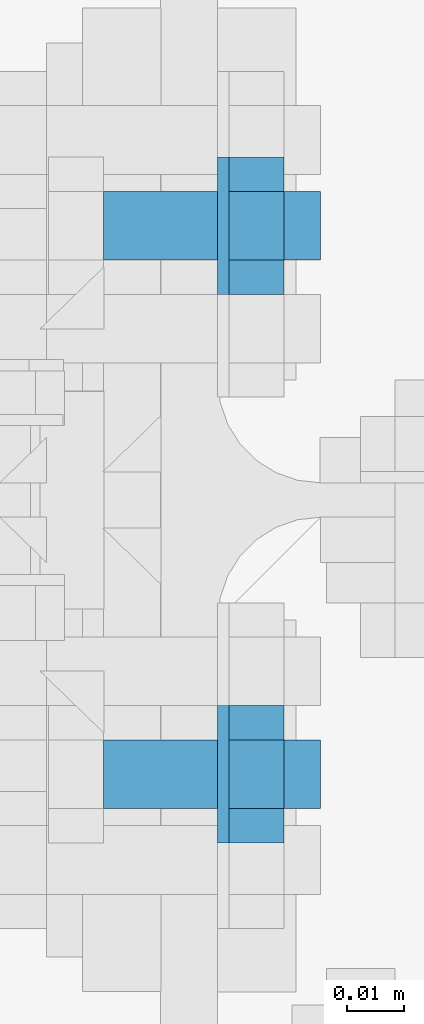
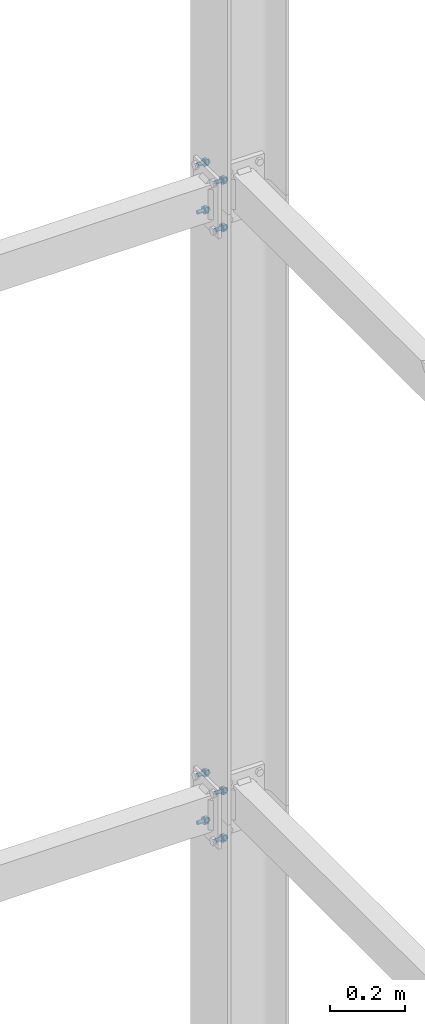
# One storey, part 227 of 251: 24 mechanical fasteners.
"""IFC4 building model written with IfcOpenShell, lengths in metres."""

from ifc_helpers import new_model, si_unit, frame, origin_with_axes, place, context, project, spatial, polyline, outline, extrude, type_object, element, save


model = new_model("IFC4")

# Units and contexts
model_context = context("Model", 3, precision=1e-05, world=origin_with_axes())
ifc_project = project(units=[si_unit("LENGTHUNIT", "METRE"), si_unit("AREAUNIT", "SQUARE_METRE"), si_unit("VOLUMEUNIT", "CUBIC_METRE"), si_unit("MASSUNIT", "GRAM", prefix="KILO"), si_unit("TIMEUNIT", "SECOND"), si_unit("PLANEANGLEUNIT", "RADIAN"), si_unit("SOLIDANGLEUNIT", "STERADIAN"), si_unit("THERMODYNAMICTEMPERATUREUNIT", "DEGREE_CELSIUS")], contexts=[model_context])

# Site, building, storey
placement_1 = place(None, origin_with_axes())
site = spatial("IfcSite", under=ifc_project, at=placement_1, Name="Italia", CompositionType="ELEMENT")
building = spatial("IfcBuilding", under=site, at=placement_1, Name="Deposito", CompositionType="ELEMENT")
storey = spatial("IfcBuildingStorey", under=building, at=placement_1, Name="Storey 0", CompositionType="ELEMENT", Elevation=0.0)

# Mechanical fasteners
mechanical_fastener_type_1 = type_object("IfcMechanicalFastenerType", Name="Collegamenti -005_-006 -008_-007 -013_-014 -016_-015", PredefinedType="BOLT")
placement_2 = place(placement_1, origin_with_axes())
mechanical_fastener_1_placement = place(placement_2, origin_with_axes())
element("IfcMechanicalFastener", 1, at=mechanical_fastener_1_placement, inside=storey, type_object=mechanical_fastener_type_1, Name="Collegamenti -005_-006 -008_-007 -013_-014 -016_-015", NominalDiameter=0.012, context=model_context, shape_type="SweptSolid", body=[
    extrude(outline(polyline([(0.0, 0.0), (-0.000204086, -0.00155294), (-0.000804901, -0.00300002), (-0.00175858, -0.00424266), (-0.00300026, -0.00519615), (-0.00444794, -0.00579554), (-0.00600052, -0.00599998), (-0.0075531, -0.00579554), (-0.00900078, -0.00519615), (-0.0102425, -0.00424266), (-0.0111961, -0.00300002), (-0.011797, -0.00155294), (-0.012001, 0.0), (-0.011797, 0.00155294), (-0.0111961, 0.00300002), (-0.0102425, 0.00424266), (-0.00900078, 0.00519615), (-0.0075531, 0.00579554), (-0.00600052, 0.00599998), (-0.00444794, 0.00579554), (-0.00300026, 0.00519615), (-0.00175858, 0.00424266), (-0.000804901, 0.00300002), (-0.000204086, 0.00155294), (0.0, 0.0)])), frame((19.933, 20.042, 0.922), z_axis=(-1.0, 0.0, 0.0), x_axis=(0.0, -1.0, 0.0)), (0.0, 0.0, 1.0), 0.0380001),
])
mechanical_fastener_type_2 = type_object("IfcMechanicalFastenerType", Name="Collegamenti -005_-006 -008_-007 -013_-014 -016_-015", PredefinedType="BOLT")
mechanical_fastener_2_placement = place(placement_2, origin_with_axes())
element("IfcMechanicalFastener", 2, at=mechanical_fastener_2_placement, inside=storey, type_object=mechanical_fastener_type_2, Name="Collegamenti -005_-006 -008_-007 -013_-014 -016_-015", NominalDiameter=0.0119993, context=model_context, shape_type="SweptSolid", body=[
    extrude(outline(polyline([(0.0, 0.0), (-0.012001, 0.0), (-0.0179996, 0.0103923), (-0.012001, 0.0207846), (0.0, 0.0207846), (0.00600052, 0.0103923), (0.0, 0.0)])), frame((19.9266, 20.042, 0.911608), z_axis=(-1.0, 0.0, 0.0), x_axis=(0.0, -1.0, 0.0)), (0.0, 0.0, 1.0), 0.00959969),
])
mechanical_fastener_type_3 = type_object("IfcMechanicalFastenerType", Name="Collegamenti -005_-006 -008_-007 -013_-014 -016_-015", PredefinedType="BOLT")
mechanical_fastener_3_placement = place(placement_2, origin_with_axes())
element("IfcMechanicalFastener", 3, at=mechanical_fastener_3_placement, inside=storey, type_object=mechanical_fastener_type_3, Name="Collegamenti -005_-006 -008_-007 -013_-014 -016_-015", NominalDiameter=0.024, context=model_context, shape_type="SweptSolid", body=[
    extrude(outline(polyline([(0.0, 0.0), (-0.000408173, -0.00310582), (-0.00160599, -0.00599998), (-0.00351334, -0.00848526), (-0.00599861, -0.0103923), (-0.00889397, -0.0115911), (-0.0119991, -0.012), (-0.0151043, -0.0115911), (-0.0179996, -0.0103923), (-0.0204849, -0.00848526), (-0.0223923, -0.00599998), (-0.0235901, -0.00310582), (-0.0239983, 0.0), (-0.0235901, 0.00310582), (-0.0223923, 0.00599998), (-0.0204849, 0.00848526), (-0.0179996, 0.0103923), (-0.0151043, 0.0115911), (-0.0119991, 0.012), (-0.00889397, 0.0115911), (-0.00599861, 0.0103923), (-0.00351334, 0.00848526), (-0.00160599, 0.00599998), (-0.000408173, 0.00310582), (0.0, 0.0)])), frame((19.917, 20.036, 0.922), z_axis=(-1.0, 0.0, 0.0), x_axis=(0.0, -1.0, 0.0)), (0.0, 0.0, 1.0), 0.0019989),
])
mechanical_fastener_type_4 = type_object("IfcMechanicalFastenerType", Name="Collegamenti -005_-006 -008_-007 -013_-014 -016_-015", PredefinedType="BOLT")
mechanical_fastener_4_placement = place(placement_2, origin_with_axes())
element("IfcMechanicalFastener", 4, at=mechanical_fastener_4_placement, inside=storey, type_object=mechanical_fastener_type_4, Name="Collegamenti -005_-006 -008_-007 -013_-014 -016_-015", NominalDiameter=0.012, context=model_context, shape_type="SweptSolid", body=[
    extrude(outline(polyline([(0.0, 0.0), (-0.000204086, -0.00155294), (-0.000804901, -0.00300002), (-0.00175858, -0.00424266), (-0.00300026, -0.00519615), (-0.00444794, -0.00579554), (-0.00600052, -0.00599998), (-0.0075531, -0.00579554), (-0.00900078, -0.00519615), (-0.0102425, -0.00424266), (-0.0111961, -0.00300002), (-0.011797, -0.00155294), (-0.012001, 0.0), (-0.011797, 0.00155294), (-0.0111961, 0.00300002), (-0.0102425, 0.00424266), (-0.00900078, 0.00519615), (-0.0075531, 0.00579554), (-0.00600052, 0.00599998), (-0.00444794, 0.00579554), (-0.00300026, 0.00519615), (-0.00175858, 0.00424266), (-0.000804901, 0.00300002), (-0.000204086, 0.00155294), (0.0, 0.0)])), frame((19.933, 19.946, 0.922), z_axis=(-1.0, 0.0, 0.0), x_axis=(0.0, -1.0, 0.0)), (0.0, 0.0, 1.0), 0.0380001),
])
mechanical_fastener_type_5 = type_object("IfcMechanicalFastenerType", Name="Collegamenti -005_-006 -008_-007 -013_-014 -016_-015", PredefinedType="BOLT")
mechanical_fastener_5_placement = place(placement_2, origin_with_axes())
element("IfcMechanicalFastener", 5, at=mechanical_fastener_5_placement, inside=storey, type_object=mechanical_fastener_type_5, Name="Collegamenti -005_-006 -008_-007 -013_-014 -016_-015", NominalDiameter=0.0119993, context=model_context, shape_type="SweptSolid", body=[
    extrude(outline(polyline([(0.0, 0.0), (-0.012001, 0.0), (-0.0180016, 0.0103923), (-0.012001, 0.0207846), (0.0, 0.0207846), (0.00599861, 0.0103923), (0.0, 0.0)])), frame((19.9266, 19.946, 0.911608), z_axis=(-1.0, 0.0, 0.0), x_axis=(0.0, -1.0, 0.0)), (0.0, 0.0, 1.0), 0.00959969),
])
mechanical_fastener_type_6 = type_object("IfcMechanicalFastenerType", Name="Collegamenti -005_-006 -008_-007 -013_-014 -016_-015", PredefinedType="BOLT")
mechanical_fastener_6_placement = place(placement_2, origin_with_axes())
element("IfcMechanicalFastener", 6, at=mechanical_fastener_6_placement, inside=storey, type_object=mechanical_fastener_type_6, Name="Collegamenti -005_-006 -008_-007 -013_-014 -016_-015", NominalDiameter=0.024, context=model_context, shape_type="SweptSolid", body=[
    extrude(outline(polyline([(0.0, 0.0), (-0.000408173, -0.00310582), (-0.00160599, -0.00599998), (-0.00351334, -0.00848526), (-0.00599861, -0.0103923), (-0.00889397, -0.0115911), (-0.0119991, -0.012), (-0.0151043, -0.0115911), (-0.0179996, -0.0103923), (-0.0204849, -0.00848526), (-0.0223923, -0.00599998), (-0.0235901, -0.00310582), (-0.0239983, 0.0), (-0.0235901, 0.00310582), (-0.0223923, 0.00599998), (-0.0204849, 0.00848526), (-0.0179996, 0.0103923), (-0.0151043, 0.0115911), (-0.0119991, 0.012), (-0.00889397, 0.0115911), (-0.00599861, 0.0103923), (-0.00351334, 0.00848526), (-0.00160599, 0.00599998), (-0.000408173, 0.00310582), (0.0, 0.0)])), frame((19.917, 19.94, 0.922), z_axis=(-1.0, 0.0, 0.0), x_axis=(0.0, -1.0, 0.0)), (0.0, 0.0, 1.0), 0.0019989),
])
mechanical_fastener_type_7 = type_object("IfcMechanicalFastenerType", Name="Collegamenti -005_-006 -008_-007 -013_-014 -016_-015", PredefinedType="BOLT")
mechanical_fastener_7_placement = place(placement_2, origin_with_axes())
element("IfcMechanicalFastener", 7, at=mechanical_fastener_7_placement, inside=storey, type_object=mechanical_fastener_type_7, Name="Collegamenti -005_-006 -008_-007 -013_-014 -016_-015", NominalDiameter=0.012, context=model_context, shape_type="SweptSolid", body=[
    extrude(outline(polyline([(0.0, 0.0), (-0.000204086, -0.00155294), (-0.000804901, -0.00300002), (-0.00175858, -0.00424266), (-0.00300026, -0.00519609), (-0.00444794, -0.0057956), (-0.00600052, -0.00600004), (-0.0075531, -0.0057956), (-0.00900078, -0.00519609), (-0.0102425, -0.00424266), (-0.0111961, -0.00300002), (-0.011797, -0.00155294), (-0.012001, 0.0), (-0.011797, 0.00155294), (-0.0111961, 0.00300002), (-0.0102425, 0.00424266), (-0.00900078, 0.00519609), (-0.0075531, 0.0057956), (-0.00600052, 0.00600004), (-0.00444794, 0.0057956), (-0.00300026, 0.00519609), (-0.00175858, 0.00424266), (-0.000804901, 0.00300002), (-0.000204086, 0.00155294), (0.0, 0.0)])), frame((19.933, 20.042, 1.078), z_axis=(-1.0, 0.0, 0.0), x_axis=(0.0, -1.0, 0.0)), (0.0, 0.0, 1.0), 0.0380001),
])
mechanical_fastener_type_8 = type_object("IfcMechanicalFastenerType", Name="Collegamenti -005_-006 -008_-007 -013_-014 -016_-015", PredefinedType="BOLT")
mechanical_fastener_8_placement = place(placement_2, origin_with_axes())
element("IfcMechanicalFastener", 8, at=mechanical_fastener_8_placement, inside=storey, type_object=mechanical_fastener_type_8, Name="Collegamenti -005_-006 -008_-007 -013_-014 -016_-015", NominalDiameter=0.0119993, context=model_context, shape_type="SweptSolid", body=[
    extrude(outline(polyline([(0.0, 0.0), (-0.012001, 0.0), (-0.0179996, 0.0103923), (-0.012001, 0.0207846), (0.0, 0.0207846), (0.00600052, 0.0103923), (0.0, 0.0)])), frame((19.9266, 20.042, 1.06761), z_axis=(-1.0, 0.0, 0.0), x_axis=(0.0, -1.0, 0.0)), (0.0, 0.0, 1.0), 0.00959969),
])
mechanical_fastener_type_9 = type_object("IfcMechanicalFastenerType", Name="Collegamenti -005_-006 -008_-007 -013_-014 -016_-015", PredefinedType="BOLT")
mechanical_fastener_9_placement = place(placement_2, origin_with_axes())
element("IfcMechanicalFastener", 9, at=mechanical_fastener_9_placement, inside=storey, type_object=mechanical_fastener_type_9, Name="Collegamenti -005_-006 -008_-007 -013_-014 -016_-015", NominalDiameter=0.024, context=model_context, shape_type="SweptSolid", body=[
    extrude(outline(polyline([(0.0, 0.0), (-0.000408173, -0.00310588), (-0.00160599, -0.00600004), (-0.00351334, -0.00848532), (-0.00599861, -0.0103923), (-0.00889397, -0.0115911), (-0.0119991, -0.012), (-0.0151043, -0.0115911), (-0.0179996, -0.0103923), (-0.0204849, -0.00848532), (-0.0223923, -0.00600004), (-0.0235901, -0.00310588), (-0.0239983, 0.0), (-0.0235901, 0.00310588), (-0.0223923, 0.00600004), (-0.0204849, 0.00848532), (-0.0179996, 0.0103923), (-0.0151043, 0.0115911), (-0.0119991, 0.012), (-0.00889397, 0.0115911), (-0.00599861, 0.0103923), (-0.00351334, 0.00848532), (-0.00160599, 0.00600004), (-0.000408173, 0.00310588), (0.0, 0.0)])), frame((19.917, 20.036, 1.078), z_axis=(-1.0, 0.0, 0.0), x_axis=(0.0, -1.0, 0.0)), (0.0, 0.0, 1.0), 0.0019989),
])
mechanical_fastener_type_10 = type_object("IfcMechanicalFastenerType", Name="Collegamenti -005_-006 -008_-007 -013_-014 -016_-015", PredefinedType="BOLT")
mechanical_fastener_10_placement = place(placement_2, origin_with_axes())
element("IfcMechanicalFastener", 10, at=mechanical_fastener_10_placement, inside=storey, type_object=mechanical_fastener_type_10, Name="Collegamenti -005_-006 -008_-007 -013_-014 -016_-015", NominalDiameter=0.012, context=model_context, shape_type="SweptSolid", body=[
    extrude(outline(polyline([(0.0, 0.0), (-0.000204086, -0.00155294), (-0.000804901, -0.00300002), (-0.00175858, -0.00424266), (-0.00300026, -0.00519609), (-0.00444794, -0.0057956), (-0.00600052, -0.00600004), (-0.0075531, -0.0057956), (-0.00900078, -0.00519609), (-0.0102425, -0.00424266), (-0.0111961, -0.00300002), (-0.011797, -0.00155294), (-0.012001, 0.0), (-0.011797, 0.00155294), (-0.0111961, 0.00300002), (-0.0102425, 0.00424266), (-0.00900078, 0.00519609), (-0.0075531, 0.0057956), (-0.00600052, 0.00600004), (-0.00444794, 0.0057956), (-0.00300026, 0.00519609), (-0.00175858, 0.00424266), (-0.000804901, 0.00300002), (-0.000204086, 0.00155294), (0.0, 0.0)])), frame((19.933, 19.946, 1.078), z_axis=(-1.0, 0.0, 0.0), x_axis=(0.0, -1.0, 0.0)), (0.0, 0.0, 1.0), 0.0380001),
])
mechanical_fastener_type_11 = type_object("IfcMechanicalFastenerType", Name="Collegamenti -005_-006 -008_-007 -013_-014 -016_-015", PredefinedType="BOLT")
mechanical_fastener_11_placement = place(placement_2, origin_with_axes())
element("IfcMechanicalFastener", 11, at=mechanical_fastener_11_placement, inside=storey, type_object=mechanical_fastener_type_11, Name="Collegamenti -005_-006 -008_-007 -013_-014 -016_-015", NominalDiameter=0.0119993, context=model_context, shape_type="SweptSolid", body=[
    extrude(outline(polyline([(0.0, 0.0), (-0.012001, 0.0), (-0.0180016, 0.0103923), (-0.012001, 0.0207846), (0.0, 0.0207846), (0.00599861, 0.0103923), (0.0, 0.0)])), frame((19.9266, 19.946, 1.06761), z_axis=(-1.0, 0.0, 0.0), x_axis=(0.0, -1.0, 0.0)), (0.0, 0.0, 1.0), 0.00959969),
])
mechanical_fastener_type_12 = type_object("IfcMechanicalFastenerType", Name="Collegamenti -005_-006 -008_-007 -013_-014 -016_-015", PredefinedType="BOLT")
mechanical_fastener_12_placement = place(placement_2, origin_with_axes())
element("IfcMechanicalFastener", 12, at=mechanical_fastener_12_placement, inside=storey, type_object=mechanical_fastener_type_12, Name="Collegamenti -005_-006 -008_-007 -013_-014 -016_-015", NominalDiameter=0.024, context=model_context, shape_type="SweptSolid", body=[
    extrude(outline(polyline([(0.0, 0.0), (-0.000408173, -0.00310588), (-0.00160599, -0.00600004), (-0.00351334, -0.00848532), (-0.00599861, -0.0103923), (-0.00889397, -0.0115911), (-0.0119991, -0.012), (-0.0151043, -0.0115911), (-0.0179996, -0.0103923), (-0.0204849, -0.00848532), (-0.0223923, -0.00600004), (-0.0235901, -0.00310588), (-0.0239983, 0.0), (-0.0235901, 0.00310588), (-0.0223923, 0.00600004), (-0.0204849, 0.00848532), (-0.0179996, 0.0103923), (-0.0151043, 0.0115911), (-0.0119991, 0.012), (-0.00889397, 0.0115911), (-0.00599861, 0.0103923), (-0.00351334, 0.00848532), (-0.00160599, 0.00600004), (-0.000408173, 0.00310588), (0.0, 0.0)])), frame((19.917, 19.94, 1.078), z_axis=(-1.0, 0.0, 0.0), x_axis=(0.0, -1.0, 0.0)), (0.0, 0.0, 1.0), 0.0019989),
])
mechanical_fastener_type_13 = type_object("IfcMechanicalFastenerType", Name="Collegamenti -005_-006 -008_-007 -013_-014 -016_-015", PredefinedType="BOLT")
mechanical_fastener_13_placement = place(placement_2, origin_with_axes())
element("IfcMechanicalFastener", 13, at=mechanical_fastener_13_placement, inside=storey, type_object=mechanical_fastener_type_13, Name="Collegamenti -005_-006 -008_-007 -013_-014 -016_-015", NominalDiameter=0.012, context=model_context, shape_type="SweptSolid", body=[
    extrude(outline(polyline([(0.0, 0.0), (-0.000204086, -0.00155282), (-0.000804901, -0.00300002), (-0.00175858, -0.00424266), (-0.00300026, -0.00519609), (-0.00444794, -0.00579548), (-0.00600052, -0.00600004), (-0.0075531, -0.00579548), (-0.00900078, -0.00519609), (-0.0102425, -0.00424266), (-0.0111961, -0.00300002), (-0.011797, -0.00155282), (-0.012001, 0.0), (-0.011797, 0.00155282), (-0.0111961, 0.00300002), (-0.0102425, 0.00424266), (-0.00900078, 0.00519609), (-0.0075531, 0.00579548), (-0.00600052, 0.00600004), (-0.00444794, 0.00579548), (-0.00300026, 0.00519609), (-0.00175858, 0.00424266), (-0.000804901, 0.00300002), (-0.000204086, 0.00155282), (0.0, 0.0)])), frame((19.933, 20.042, 2.922), z_axis=(-1.0, 0.0, 0.0), x_axis=(0.0, -1.0, 0.0)), (0.0, 0.0, 1.0), 0.0380001),
])
mechanical_fastener_type_14 = type_object("IfcMechanicalFastenerType", Name="Collegamenti -005_-006 -008_-007 -013_-014 -016_-015", PredefinedType="BOLT")
mechanical_fastener_14_placement = place(placement_2, origin_with_axes())
element("IfcMechanicalFastener", 14, at=mechanical_fastener_14_placement, inside=storey, type_object=mechanical_fastener_type_14, Name="Collegamenti -005_-006 -008_-007 -013_-014 -016_-015", NominalDiameter=0.0119992, context=model_context, shape_type="SweptSolid", body=[
    extrude(outline(polyline([(0.0, 0.0), (-0.012001, 0.0), (-0.0179996, 0.0103922), (-0.012001, 0.0207846), (0.0, 0.0207846), (0.00600052, 0.0103922), (0.0, 0.0)])), frame((19.9266, 20.042, 2.91161), z_axis=(-1.0, 0.0, 0.0), x_axis=(0.0, -1.0, 0.0)), (0.0, 0.0, 1.0), 0.00959969),
])
mechanical_fastener_type_15 = type_object("IfcMechanicalFastenerType", Name="Collegamenti -005_-006 -008_-007 -013_-014 -016_-015", PredefinedType="BOLT")
mechanical_fastener_15_placement = place(placement_2, origin_with_axes())
element("IfcMechanicalFastener", 15, at=mechanical_fastener_15_placement, inside=storey, type_object=mechanical_fastener_type_15, Name="Collegamenti -005_-006 -008_-007 -013_-014 -016_-015", NominalDiameter=0.024, context=model_context, shape_type="SweptSolid", body=[
    extrude(outline(polyline([(0.0, 0.0), (-0.000408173, -0.00310588), (-0.00160599, -0.00600004), (-0.00351334, -0.00848532), (-0.00599861, -0.0103922), (-0.00889397, -0.0115912), (-0.0119991, -0.0120001), (-0.0151043, -0.0115912), (-0.0179996, -0.0103922), (-0.0204849, -0.00848532), (-0.0223923, -0.00600004), (-0.0235901, -0.00310588), (-0.0239983, 0.0), (-0.0235901, 0.00310588), (-0.0223923, 0.00600004), (-0.0204849, 0.00848532), (-0.0179996, 0.0103922), (-0.0151043, 0.0115912), (-0.0119991, 0.0120001), (-0.00889397, 0.0115912), (-0.00599861, 0.0103922), (-0.00351334, 0.00848532), (-0.00160599, 0.00600004), (-0.000408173, 0.00310588), (0.0, 0.0)])), frame((19.917, 20.036, 2.922), z_axis=(-1.0, 0.0, 0.0), x_axis=(0.0, -1.0, 0.0)), (0.0, 0.0, 1.0), 0.0019989),
])
mechanical_fastener_type_16 = type_object("IfcMechanicalFastenerType", Name="Collegamenti -005_-006 -008_-007 -013_-014 -016_-015", PredefinedType="BOLT")
mechanical_fastener_16_placement = place(placement_2, origin_with_axes())
element("IfcMechanicalFastener", 16, at=mechanical_fastener_16_placement, inside=storey, type_object=mechanical_fastener_type_16, Name="Collegamenti -005_-006 -008_-007 -013_-014 -016_-015", NominalDiameter=0.012, context=model_context, shape_type="SweptSolid", body=[
    extrude(outline(polyline([(0.0, 0.0), (-0.000204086, -0.00155282), (-0.000804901, -0.00300002), (-0.00175858, -0.00424266), (-0.00300026, -0.00519609), (-0.00444794, -0.00579548), (-0.00600052, -0.00600004), (-0.0075531, -0.00579548), (-0.00900078, -0.00519609), (-0.0102425, -0.00424266), (-0.0111961, -0.00300002), (-0.011797, -0.00155282), (-0.012001, 0.0), (-0.011797, 0.00155282), (-0.0111961, 0.00300002), (-0.0102425, 0.00424266), (-0.00900078, 0.00519609), (-0.0075531, 0.00579548), (-0.00600052, 0.00600004), (-0.00444794, 0.00579548), (-0.00300026, 0.00519609), (-0.00175858, 0.00424266), (-0.000804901, 0.00300002), (-0.000204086, 0.00155282), (0.0, 0.0)])), frame((19.933, 19.946, 2.922), z_axis=(-1.0, 0.0, 0.0), x_axis=(0.0, -1.0, 0.0)), (0.0, 0.0, 1.0), 0.0380001),
])
mechanical_fastener_type_17 = type_object("IfcMechanicalFastenerType", Name="Collegamenti -005_-006 -008_-007 -013_-014 -016_-015", PredefinedType="BOLT")
mechanical_fastener_17_placement = place(placement_2, origin_with_axes())
element("IfcMechanicalFastener", 17, at=mechanical_fastener_17_placement, inside=storey, type_object=mechanical_fastener_type_17, Name="Collegamenti -005_-006 -008_-007 -013_-014 -016_-015", NominalDiameter=0.0119992, context=model_context, shape_type="SweptSolid", body=[
    extrude(outline(polyline([(0.0, 0.0), (-0.012001, 0.0), (-0.0180016, 0.0103922), (-0.012001, 0.0207846), (0.0, 0.0207846), (0.00599861, 0.0103922), (0.0, 0.0)])), frame((19.9266, 19.946, 2.91161), z_axis=(-1.0, 0.0, 0.0), x_axis=(0.0, -1.0, 0.0)), (0.0, 0.0, 1.0), 0.00959969),
])
mechanical_fastener_type_18 = type_object("IfcMechanicalFastenerType", Name="Collegamenti -005_-006 -008_-007 -013_-014 -016_-015", PredefinedType="BOLT")
mechanical_fastener_18_placement = place(placement_2, origin_with_axes())
element("IfcMechanicalFastener", 18, at=mechanical_fastener_18_placement, inside=storey, type_object=mechanical_fastener_type_18, Name="Collegamenti -005_-006 -008_-007 -013_-014 -016_-015", NominalDiameter=0.024, context=model_context, shape_type="SweptSolid", body=[
    extrude(outline(polyline([(0.0, 0.0), (-0.000408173, -0.00310588), (-0.00160599, -0.00600004), (-0.00351334, -0.00848532), (-0.00599861, -0.0103922), (-0.00889397, -0.0115912), (-0.0119991, -0.0120001), (-0.0151043, -0.0115912), (-0.0179996, -0.0103922), (-0.0204849, -0.00848532), (-0.0223923, -0.00600004), (-0.0235901, -0.00310588), (-0.0239983, 0.0), (-0.0235901, 0.00310588), (-0.0223923, 0.00600004), (-0.0204849, 0.00848532), (-0.0179996, 0.0103922), (-0.0151043, 0.0115912), (-0.0119991, 0.0120001), (-0.00889397, 0.0115912), (-0.00599861, 0.0103922), (-0.00351334, 0.00848532), (-0.00160599, 0.00600004), (-0.000408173, 0.00310588), (0.0, 0.0)])), frame((19.917, 19.94, 2.922), z_axis=(-1.0, 0.0, 0.0), x_axis=(0.0, -1.0, 0.0)), (0.0, 0.0, 1.0), 0.0019989),
])
mechanical_fastener_type_19 = type_object("IfcMechanicalFastenerType", Name="Collegamenti -005_-006 -008_-007 -013_-014 -016_-015", PredefinedType="BOLT")
mechanical_fastener_19_placement = place(placement_2, origin_with_axes())
element("IfcMechanicalFastener", 19, at=mechanical_fastener_19_placement, inside=storey, type_object=mechanical_fastener_type_19, Name="Collegamenti -005_-006 -008_-007 -013_-014 -016_-015", NominalDiameter=0.012, context=model_context, shape_type="SweptSolid", body=[
    extrude(outline(polyline([(0.0, 0.0), (-0.000204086, -0.00155282), (-0.000804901, -0.00300002), (-0.00175858, -0.00424266), (-0.00300026, -0.00519609), (-0.00444794, -0.00579548), (-0.00600052, -0.00600004), (-0.0075531, -0.00579548), (-0.00900078, -0.00519609), (-0.0102425, -0.00424266), (-0.0111961, -0.00300002), (-0.011797, -0.00155282), (-0.012001, 0.0), (-0.011797, 0.00155282), (-0.0111961, 0.00300002), (-0.0102425, 0.00424266), (-0.00900078, 0.00519609), (-0.0075531, 0.00579548), (-0.00600052, 0.00600004), (-0.00444794, 0.00579548), (-0.00300026, 0.00519609), (-0.00175858, 0.00424266), (-0.000804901, 0.00300002), (-0.000204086, 0.00155282), (0.0, 0.0)])), frame((19.933, 20.042, 3.078), z_axis=(-1.0, 0.0, 0.0), x_axis=(0.0, -1.0, 0.0)), (0.0, 0.0, 1.0), 0.0380001),
])
mechanical_fastener_type_20 = type_object("IfcMechanicalFastenerType", Name="Collegamenti -005_-006 -008_-007 -013_-014 -016_-015", PredefinedType="BOLT")
mechanical_fastener_20_placement = place(placement_2, origin_with_axes())
element("IfcMechanicalFastener", 20, at=mechanical_fastener_20_placement, inside=storey, type_object=mechanical_fastener_type_20, Name="Collegamenti -005_-006 -008_-007 -013_-014 -016_-015", NominalDiameter=0.0119992, context=model_context, shape_type="SweptSolid", body=[
    extrude(outline(polyline([(0.0, 0.0), (-0.012001, 0.0), (-0.0179996, 0.0103924), (-0.012001, 0.0207846), (0.0, 0.0207846), (0.00600052, 0.0103924), (0.0, 0.0)])), frame((19.9266, 20.042, 3.06761), z_axis=(-1.0, 0.0, 0.0), x_axis=(0.0, -1.0, 0.0)), (0.0, 0.0, 1.0), 0.00959969),
])
mechanical_fastener_type_21 = type_object("IfcMechanicalFastenerType", Name="Collegamenti -005_-006 -008_-007 -013_-014 -016_-015", PredefinedType="BOLT")
mechanical_fastener_21_placement = place(placement_2, origin_with_axes())
element("IfcMechanicalFastener", 21, at=mechanical_fastener_21_placement, inside=storey, type_object=mechanical_fastener_type_21, Name="Collegamenti -005_-006 -008_-007 -013_-014 -016_-015", NominalDiameter=0.024, context=model_context, shape_type="SweptSolid", body=[
    extrude(outline(polyline([(0.0, 0.0), (-0.000408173, -0.00310588), (-0.00160599, -0.00600004), (-0.00351334, -0.00848532), (-0.00599861, -0.0103922), (-0.00889397, -0.0115912), (-0.0119991, -0.0120001), (-0.0151043, -0.0115912), (-0.0179996, -0.0103922), (-0.0204849, -0.00848532), (-0.0223923, -0.00600004), (-0.0235901, -0.00310588), (-0.0239983, 0.0), (-0.0235901, 0.00310588), (-0.0223923, 0.00600004), (-0.0204849, 0.00848532), (-0.0179996, 0.0103922), (-0.0151043, 0.0115912), (-0.0119991, 0.0120001), (-0.00889397, 0.0115912), (-0.00599861, 0.0103922), (-0.00351334, 0.00848532), (-0.00160599, 0.00600004), (-0.000408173, 0.00310588), (0.0, 0.0)])), frame((19.917, 20.036, 3.078), z_axis=(-1.0, 0.0, 0.0), x_axis=(0.0, -1.0, 0.0)), (0.0, 0.0, 1.0), 0.0019989),
])
mechanical_fastener_type_22 = type_object("IfcMechanicalFastenerType", Name="Collegamenti -005_-006 -008_-007 -013_-014 -016_-015", PredefinedType="BOLT")
mechanical_fastener_22_placement = place(placement_2, origin_with_axes())
element("IfcMechanicalFastener", 22, at=mechanical_fastener_22_placement, inside=storey, type_object=mechanical_fastener_type_22, Name="Collegamenti -005_-006 -008_-007 -013_-014 -016_-015", NominalDiameter=0.012, context=model_context, shape_type="SweptSolid", body=[
    extrude(outline(polyline([(0.0, 0.0), (-0.000204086, -0.00155282), (-0.000804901, -0.00300002), (-0.00175858, -0.00424266), (-0.00300026, -0.00519609), (-0.00444794, -0.00579548), (-0.00600052, -0.00600004), (-0.0075531, -0.00579548), (-0.00900078, -0.00519609), (-0.0102425, -0.00424266), (-0.0111961, -0.00300002), (-0.011797, -0.00155282), (-0.012001, 0.0), (-0.011797, 0.00155282), (-0.0111961, 0.00300002), (-0.0102425, 0.00424266), (-0.00900078, 0.00519609), (-0.0075531, 0.00579548), (-0.00600052, 0.00600004), (-0.00444794, 0.00579548), (-0.00300026, 0.00519609), (-0.00175858, 0.00424266), (-0.000804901, 0.00300002), (-0.000204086, 0.00155282), (0.0, 0.0)])), frame((19.933, 19.946, 3.078), z_axis=(-1.0, 0.0, 0.0), x_axis=(0.0, -1.0, 0.0)), (0.0, 0.0, 1.0), 0.0380001),
])
mechanical_fastener_type_23 = type_object("IfcMechanicalFastenerType", Name="Collegamenti -005_-006 -008_-007 -013_-014 -016_-015", PredefinedType="BOLT")
mechanical_fastener_23_placement = place(placement_2, origin_with_axes())
element("IfcMechanicalFastener", 23, at=mechanical_fastener_23_placement, inside=storey, type_object=mechanical_fastener_type_23, Name="Collegamenti -005_-006 -008_-007 -013_-014 -016_-015", NominalDiameter=0.0119992, context=model_context, shape_type="SweptSolid", body=[
    extrude(outline(polyline([(0.0, 0.0), (-0.012001, 0.0), (-0.0180016, 0.0103924), (-0.012001, 0.0207846), (0.0, 0.0207846), (0.00599861, 0.0103924), (0.0, 0.0)])), frame((19.9266, 19.946, 3.06761), z_axis=(-1.0, 0.0, 0.0), x_axis=(0.0, -1.0, 0.0)), (0.0, 0.0, 1.0), 0.00959969),
])
mechanical_fastener_type_24 = type_object("IfcMechanicalFastenerType", Name="Collegamenti -005_-006 -008_-007 -013_-014 -016_-015", PredefinedType="BOLT")
mechanical_fastener_24_placement = place(placement_2, origin_with_axes())
element("IfcMechanicalFastener", 24, at=mechanical_fastener_24_placement, inside=storey, type_object=mechanical_fastener_type_24, Name="Collegamenti -005_-006 -008_-007 -013_-014 -016_-015", NominalDiameter=0.024, context=model_context, shape_type="SweptSolid", body=[
    extrude(outline(polyline([(0.0, 0.0), (-0.000408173, -0.00310588), (-0.00160599, -0.00600004), (-0.00351334, -0.00848532), (-0.00599861, -0.0103922), (-0.00889397, -0.0115912), (-0.0119991, -0.0120001), (-0.0151043, -0.0115912), (-0.0179996, -0.0103922), (-0.0204849, -0.00848532), (-0.0223923, -0.00600004), (-0.0235901, -0.00310588), (-0.0239983, 0.0), (-0.0235901, 0.00310588), (-0.0223923, 0.00600004), (-0.0204849, 0.00848532), (-0.0179996, 0.0103922), (-0.0151043, 0.0115912), (-0.0119991, 0.0120001), (-0.00889397, 0.0115912), (-0.00599861, 0.0103922), (-0.00351334, 0.00848532), (-0.00160599, 0.00600004), (-0.000408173, 0.00310588), (0.0, 0.0)])), frame((19.917, 19.94, 3.078), z_axis=(-1.0, 0.0, 0.0), x_axis=(0.0, -1.0, 0.0)), (0.0, 0.0, 1.0), 0.0019989),
])

save(model, "model.ifc")
